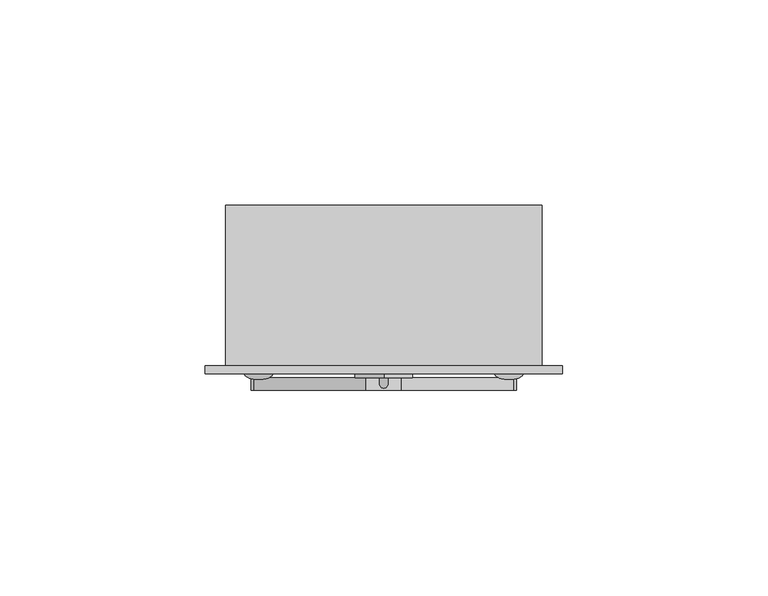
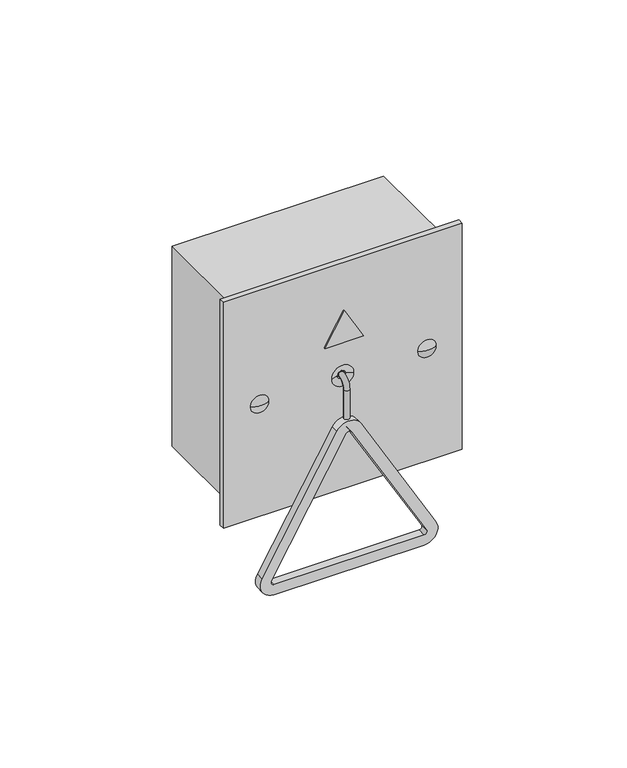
"""IFC4 building model written with IfcOpenShell, lengths in millimetres: proxy geometry, TSL_UK - TSLSZPC - Single Zone Assistance Alarm Kit : TSL.SZPC.CS - Satin - Chord."""

from ifc_helpers import new_model, si_unit, point, frame, frame_2d, origin, place, context, project, spatial, polyline, circle_curve, ellipse_curve, trimmed, segment, composite_curve, outline, extrude, source, transform, mapped, element, save
from ifc_brep_helpers import plane_surface, cylinder_surface, revolved_surface, advanced_brep


def communication_devices_a7ff74ee(model_context):
    return source(origin(), model_context, "Body", "SolidModel", [
        extrude(outline(composite_curve([segment(trimmed(circle_curve(frame_2d((-67.361288, -27.3402639)), 5.0), [point((-64.8615123, -31.6705204))], [point((-72.361288, -27.3402639))], False, "CARTESIAN"), True, "CONTINUOUS"), segment(polyline([(-72.361288, -27.3402639), (-72.361288, 27.3402639)]), True, "CONTINUOUS"), segment(trimmed(circle_curve(frame_2d((-67.361288, 27.3402639)), 5.0), [point((-72.361288, 27.3402639))], [point((-64.8615123, 31.6705204))], False, "CARTESIAN"), True, "CONTINUOUS"), segment(polyline([(-64.8615123, 31.6705204), (-17.5011215, 4.3302565)]), True, "CONTINUOUS"), segment(trimmed(circle_curve(frame_2d((-20.0008972, 0.0)), 5.0), [point((-17.5011215, 4.3302565))], [point((-17.5011215, -4.3302565))], False, "CARTESIAN"), True, "CONTINUOUS"), segment(polyline([(-17.5011215, -4.3302565), (-64.8615123, -31.6705204)]), True, "CONTINUOUS")], self_intersect=False), holes=[composite_curve([segment(polyline([(-19.500942, 0.8660513), (-66.8613329, 28.2063152)]), True, "CONTINUOUS"), segment(trimmed(circle_curve(frame_2d((-67.361288, 27.3402639)), 1.0), [point((-66.8613329, 28.2063152))], [point((-68.361288, 27.3402639))], True, "CARTESIAN"), True, "CONTINUOUS"), segment(polyline([(-68.361288, 27.3402639), (-68.361288, -27.3402639)]), True, "CONTINUOUS"), segment(trimmed(circle_curve(frame_2d((-67.361288, -27.3402639)), 1.0), [point((-68.361288, -27.3402639))], [point((-66.8613329, -28.2063152))], True, "CARTESIAN"), True, "CONTINUOUS"), segment(polyline([(-66.8613329, -28.2063152), (-19.500942, -0.8660513)]), True, "CONTINUOUS"), segment(trimmed(circle_curve(frame_2d((-20.0008972, 0.0)), 1.0), [point((-19.500942, -0.8660513))], [point((-19.500942, 0.8660513))], True, "CARTESIAN"), True, "CONTINUOUS")], self_intersect=False)]), frame((0.0, -6.0, 0.0), z_axis=(0.0, 1.0, 0.0), x_axis=(0.0, 0.0, 1.0)), (0.0, 0.0, 1.0), 3.0),
        advanced_brep(
        [(-1.0, 0.0, 0.0), (1.0, 0.0, 0.0), (-1.0, -0.9148372, 0.0), (1.0, -0.9148372, 0.0), (1.0, -4.5, -3.5851628), (-1.0, -4.5, -3.5851628), (-1.0, -4.5, -16.999984), (1.0, -4.5, -16.999984)],
        [
            (0, 1, circle_curve(frame((0.0, 0.0, 0.0), z_axis=(0.0, 1.0, 0.0), x_axis=(1.0, 0.0, 0.0)), 1.0)),
            (1, 0, circle_curve(frame((0.0, 0.0, 0.0), z_axis=(0.0, 1.0, 0.0), x_axis=(1.0, 0.0, 0.0)), 1.0)),
            (0, 2),
            (2, 3, circle_curve(frame((0.0, -0.9148372, 0.0), z_axis=(0.0, 1.0, 0.0), x_axis=(1.0, 0.0, 0.0)), 1.0)),
            (3, 1),
            (3, 2, circle_curve(frame((0.0, -0.9148372, 0.0), z_axis=(0.0, 1.0, 0.0), x_axis=(1.0, 0.0, 0.0)), 1.0)),
            (4, 3, circle_curve(frame((1.0, -0.9148372, -3.5851628), z_axis=(-1.0, 0.0, 0.0), x_axis=(0.0, 0.0, 1.0)), 3.5851628)),
            (2, 5, circle_curve(frame((-1.0, -0.9148372, -3.5851628), z_axis=(1.0, 0.0, 0.0), x_axis=(0.0, 0.0, 1.0)), 3.5851628)),
            (5, 4, circle_curve(frame((0.0, -4.5, -3.5851628), z_axis=(0.0, 0.0, 1.0), x_axis=(1.0, 0.0, 0.0)), 1.0)),
            (4, 5, circle_curve(frame((0.0, -4.5, -3.5851628), z_axis=(0.0, 0.0, 1.0), x_axis=(1.0, 0.0, 0.0)), 1.0)),
            (6, 7, circle_curve(frame((0.0, -4.5, -16.999984), z_axis=(0.0, 0.0, -1.0), x_axis=(1.0, 0.0, 0.0)), 1.0)),
            (7, 6, circle_curve(frame((0.0, -4.5, -16.999984), z_axis=(0.0, 0.0, -1.0), x_axis=(1.0, 0.0, 0.0)), 1.0)),
            (5, 6),
            (7, 4),
        ],
        [
            plane_surface(frame((0.0, 0.0, 0.0), z_axis=(0.0, 1.0, 0.0), x_axis=(1.0, 0.0, 0.0))),
            cylinder_surface(frame((0.0, 0.0, 0.0), z_axis=(0.0, 1.0, 0.0), x_axis=(1.0, 0.0, 0.0)), 1.0),
            revolved_surface(trimmed(ellipse_curve(frame((0.0, -0.9148372, 0.0), z_axis=(0.0, 1.0, 0.0), x_axis=(1.0, 0.0, 0.0)), 1.0, 1.0), [point((-1.0, -0.9148372, 0.0))], [point((1.0, -0.9148372, 0.0))], True, "CARTESIAN"), (0.0, -0.9148372, -3.5851628), (1.0, 0.0, 0.0)),
            revolved_surface(trimmed(ellipse_curve(frame((0.0, -0.9148372, 0.0), z_axis=(0.0, 1.0, 0.0), x_axis=(1.0, 0.0, 0.0)), 1.0, 1.0), [point((1.0, -0.9148372, 0.0))], [point((-1.0, -0.9148372, 0.0))], True, "CARTESIAN"), (0.0, -0.9148372, -3.5851628), (1.0, 0.0, 0.0)),
            plane_surface(frame((0.0, -4.5, -16.999984), z_axis=(0.0, 0.0, -1.0), x_axis=(1.0, 0.0, 0.0))),
            cylinder_surface(frame((0.0, -4.5, -3.5851628), z_axis=(0.0, 0.0, 1.0), x_axis=(1.0, 0.0, 0.0)), 1.0),
        ],
        [
            (0, [[1, 2]]),
            (1, [[-1, 3, 4, 5]]),
            (1, [[-2, -5, 6, -3]]),
            (2, [[7, -4, 8, 9]]),
            (3, [[-8, -6, -7, 10]]),
            (4, [[11, 12]]),
            (5, [[-9, 13, -12, 14]]),
            (5, [[-10, -14, -11, -13]]),
        ],
    ),
        advanced_brep(
        [(43.5, -2.0, 43.5), (-43.5, -2.0, 43.5), (-43.5, -2.0, -43.5), (43.5, -2.0, -43.5), (4.0, -2.0, 0.0), (-4.0, -2.0, 0.0), (43.5, 0.0, 43.5), (43.5, 0.0, -43.5), (-43.5, 0.0, -43.5), (-43.5, 0.0, 43.5), (-1.5, 0.0, 0.0), (1.5, 0.0, 0.0), (-1.5, -1.139181, 0.0), (1.5, -1.139181, 0.0)],
        [
            (0, 1),
            (1, 2),
            (2, 3),
            (3, 0),
            (4, 5, circle_curve(frame((0.0, -2.0, 0.0), z_axis=(0.0, 1.0, 0.0), x_axis=(1.0, 0.0, 0.0)), 4.0)),
            (5, 4, circle_curve(frame((0.0, -2.0, 0.0), z_axis=(0.0, 1.0, 0.0), x_axis=(1.0, 0.0, 0.0)), 4.0)),
            (6, 7),
            (7, 8),
            (8, 9),
            (9, 6),
            (10, 11, circle_curve(frame((0.0, 0.0, 0.0), z_axis=(0.0, -1.0, 0.0), x_axis=(1.0, 0.0, 0.0)), 1.5)),
            (11, 10, circle_curve(frame((0.0, 0.0, 0.0), z_axis=(0.0, -1.0, 0.0), x_axis=(1.0, 0.0, 0.0)), 1.5)),
            (0, 6),
            (9, 1),
            (8, 2),
            (7, 3),
            (10, 12),
            (12, 13, circle_curve(frame((0.0, -1.139181, 0.0), z_axis=(0.0, -1.0, 0.0), x_axis=(1.0, 0.0, 0.0)), 1.5)),
            (13, 11),
            (13, 12, circle_curve(frame((0.0, -1.139181, 0.0), z_axis=(0.0, -1.0, 0.0), x_axis=(1.0, 0.0, 0.0)), 1.5)),
            (12, 5),
            (4, 13),
        ],
        [
            plane_surface(frame((-43.5, -2.0, 43.5), z_axis=(0.0, -1.0, 0.0), x_axis=(-1.0, 0.0, 0.0))),
            plane_surface(frame((-43.5, 0.0, 43.5), z_axis=(0.0, 1.0, 0.0), x_axis=(1.0, 0.0, 0.0))),
            plane_surface(frame((43.5, -2.0, 43.5), z_axis=(0.0, 0.0, 1.0), x_axis=(0.0, 1.0, 0.0))),
            plane_surface(frame((-43.5, -2.0, 43.5), z_axis=(-1.0, 0.0, 0.0), x_axis=(0.0, 1.0, 0.0))),
            plane_surface(frame((-43.5, -2.0, -43.5), z_axis=(0.0, 0.0, -1.0), x_axis=(0.0, 1.0, 0.0))),
            plane_surface(frame((43.5, -2.0, -43.5), z_axis=(1.0, 0.0, 0.0), x_axis=(0.0, 1.0, 0.0))),
            revolved_surface(polyline([(1.5, 0.0, 0.0), (1.5, -1.1391809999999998, 0.0)]), (0.0, 5.0, 0.0), (0.0, 1.0, 0.0)),
            revolved_surface(polyline([(1.5, -1.139181, 0.0), (4.0, -2.0, 0.0)]), (0.0, 5.0, 0.0), (0.0, 1.0, 0.0)),
        ],
        [
            (0, [[1, 2, 3, 4], [5, 6]]),
            (1, [[7, 8, 9, 10], [11, 12]]),
            (2, [[-1, 13, -10, 14]]),
            (3, [[-2, -14, -9, 15]]),
            (4, [[-3, -15, -8, 16]]),
            (5, [[-4, -16, -7, -13]]),
            (6, [[17, 18, 19, -11]]),
            (6, [[-17, -12, -19, 20]]),
            (7, [[-18, 21, -5, 22]]),
            (7, [[-20, -22, -6, -21]]),
        ],
    ),
        extrude(outline(polyline([(25.5508055, 0.0), (13.4249995, -7.0), (13.4249995, 7.0), (25.5508055, 0.0)])), frame((0.0, -3.0, 0.0), z_axis=(0.0, 1.0, 0.0), x_axis=(0.0, 0.0, 1.0)), (0.0, 0.0, 1.0), 1.0),
        advanced_brep(
        [(34.0, -2.0, 0.0), (27.0, -2.0, 0.0), (30.5, -2.0, 0.0), (30.5, -3.3586121, 0.0)],
        [
            (0, 1, circle_curve(frame((30.5, -2.0, 0.0), z_axis=(0.0, 1.0, 0.0), x_axis=(-1.0, 0.0, 0.0)), 3.5)),
            (1, 2),
            (2, 0),
            (1, 0, circle_curve(frame((30.5, -2.0, 0.0), z_axis=(0.0, 1.0, 0.0), x_axis=(-1.0, 0.0, 0.0)), 3.5)),
            (3, 1, ellipse_curve(frame((30.5, -2.0, 0.0), z_axis=(0.0, 0.0, -1.0), x_axis=(1.0, 0.0, 0.0)), 3.5, 1.3586121)),
            (0, 3, ellipse_curve(frame((30.5, -2.0, 0.0), z_axis=(0.0, 0.0, -1.0), x_axis=(-1.0, 0.0, 0.0)), 3.5, 1.3586121)),
        ],
        [
            plane_surface(frame((30.5, -2.0, 0.0), z_axis=(0.0, 1.0, 0.0), x_axis=(-1.0, 0.0, 0.0))),
            revolved_surface(trimmed(ellipse_curve(frame((30.5, -2.0, 0.0), z_axis=(0.0, 0.0, 1.0), x_axis=(1.0, 0.0, 0.0)), 3.5, 1.3586121), [point((27.0, -2.0, 0.0))], [point((30.5, -3.3586121, 0.0))], True, "CARTESIAN"), (30.5, 13.8518062, 0.0), (0.0, -1.0, 0.0)),
        ],
        [
            (0, [[1, 2, 3]]),
            (0, [[4, -3, -2]]),
            (1, [[5, -1, 6]]),
            (1, [[-6, -4, -5]]),
        ],
    ),
        advanced_brep(
        [(-30.5, -2.0, 0.0), (-27.0, -2.0, 0.0), (-34.0, -2.0, 0.0), (-30.5, -3.3586121, 0.0)],
        [
            (0, 1),
            (1, 2, circle_curve(frame((-30.5, -2.0, 0.0), z_axis=(0.0, 1.0, 0.0), x_axis=(1.0, 0.0, 0.0)), 3.5)),
            (2, 0),
            (2, 1, circle_curve(frame((-30.5, -2.0, 0.0), z_axis=(0.0, 1.0, 0.0), x_axis=(1.0, 0.0, 0.0)), 3.5)),
            (1, 3, ellipse_curve(frame((-30.5, -2.0, 0.0), z_axis=(0.0, 0.0, -1.0), x_axis=(-1.0, 0.0, 0.0)), 3.5, 1.3586121)),
            (3, 2, ellipse_curve(frame((-30.5, -2.0, 0.0), z_axis=(0.0, 0.0, -1.0), x_axis=(1.0, 0.0, 0.0)), 3.5, 1.3586121)),
        ],
        [
            plane_surface(frame((-30.5, -2.0, 0.0), z_axis=(0.0, 1.0, 0.0), x_axis=(1.0, 0.0, 0.0))),
            revolved_surface(trimmed(ellipse_curve(frame((-30.5, -2.0, 0.0), z_axis=(0.0, 0.0, 1.0), x_axis=(-1.0, 0.0, 0.0)), 3.5, 1.3586121), [point((-30.5, -3.3586121, 0.0))], [point((-27.0, -2.0, 0.0))], True, "CARTESIAN"), (-30.5, 13.8518062, 0.0), (0.0, 1.0, 0.0)),
        ],
        [
            (0, [[1, 2, 3]]),
            (0, [[-3, 4, -1]]),
            (1, [[-2, 5, 6]]),
            (1, [[-4, -6, -5]]),
        ],
    ),
        extrude(outline(polyline([(38.5, 0.0), (-38.5, 0.0), (-38.5, 39.0), (38.5, 39.0), (38.5, 0.0)])), frame((0.0, 0.0, -38.5), z_axis=(0.0, 0.0, 1.0), x_axis=(1.0, 0.0, 0.0)), (0.0, 0.0, 1.0), 77.0),
    ])


if __name__ == "__main__":
    model = new_model("IFC4")
    model_context = context("Model", 3, world=origin())
    ifc_project = project(units=[si_unit("LENGTHUNIT", "METRE", prefix="MILLI")], contexts=[model_context])
    site = spatial("IfcSite", under=ifc_project)
    building = spatial("IfcBuilding", under=site)
    placement = place(None, origin())
    communication_devices_shape = communication_devices_a7ff74ee(model_context)
    element("IfcBuildingElementProxy", 1, Name="TSL_UK - TSLSZPC - Single Zone Assistance Alarm Kit : TSL.SZPC.CS - Satin - Chord", ObjectType="TSL_UK - TSLSZPC - Single Zone Assistance Alarm Kit : TSL.SZPC.CS - Satin - Chord", at=placement, inside=building, context=model_context, shape_type="MappedRepresentation", body=[
        mapped(communication_devices_shape, transform((0.0, 0.0, 0.0), x_axis=(1.0, 0.0, 0.0), y_axis=(0.0, 1.0, 0.0), z_axis=(0.0, 0.0, 1.0))),
    ])
    save(model, "model.ifc")
